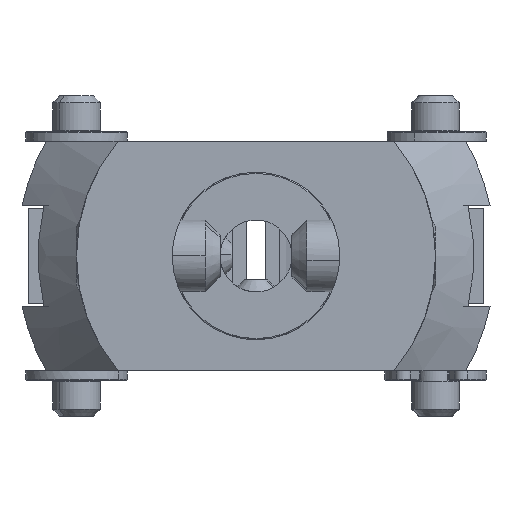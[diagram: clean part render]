
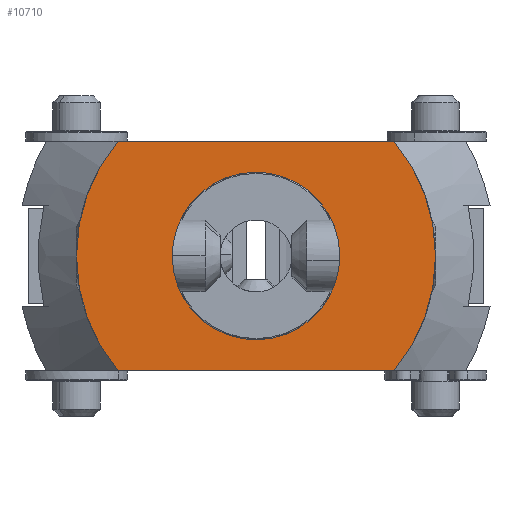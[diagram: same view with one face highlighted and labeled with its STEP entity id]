
A CAD part, left-side view. The second image highlights one B-rep face of the part: STEP entity #10710.
In plain terms, the highlighted planar face has unit normal (-1, 0, 0).
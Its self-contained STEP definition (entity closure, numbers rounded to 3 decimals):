
#351=CARTESIAN_POINT('Vertex',(-30.,-5.763,-4.8)) ;
#354=CARTESIAN_POINT('Line Origine',(-30.,0.,-4.8)) ;
#358=CARTESIAN_POINT('Vertex',(-30.,5.763,-4.8)) ;
#6153=CARTESIAN_POINT('Vertex',(-30.,5.763,4.8)) ;
#6156=CARTESIAN_POINT('Line Origine',(-30.,0.,4.8)) ;
#6160=CARTESIAN_POINT('Vertex',(-30.,-5.763,4.8)) ;
#9822=CARTESIAN_POINT('Vertex',(-30.,1.678,-3.072)) ;
#9825=CARTESIAN_POINT('Axis2P3D Location',(-30.,0.,0.)) ;
#9829=CARTESIAN_POINT('Vertex',(-30.,-1.678,3.072)) ;
#10022=CARTESIAN_POINT('Axis2P3D Location',(-30.,0.,0.)) ;
#10685=CARTESIAN_POINT('Axis2P3D Location',(-30.,0.,0.)) ;
#10690=CARTESIAN_POINT('Axis2P3D Location',(-30.,0.,0.)) ;
#10695=CARTESIAN_POINT('Axis2P3D Location',(-30.,0.,0.)) ;
#355=DIRECTION('Vector Direction',(0.,-1.,0.)) ;
#6157=DIRECTION('Vector Direction',(0.,-1.,0.)) ;
#9826=DIRECTION('Axis2P3D Direction',(1.,0.,0.)) ;
#10023=DIRECTION('Axis2P3D Direction',(1.,0.,0.)) ;
#10686=DIRECTION('Axis2P3D Direction',(-1.,0.,0.)) ;
#10687=DIRECTION('Axis2P3D XDirection',(0.,0.,1.)) ;
#10691=DIRECTION('Axis2P3D Direction',(-1.,0.,0.)) ;
#10696=DIRECTION('Axis2P3D Direction',(-1.,0.,0.)) ;
#9827=AXIS2_PLACEMENT_3D('Circle Axis2P3D',#9825,#9826,$) ;
#10024=AXIS2_PLACEMENT_3D('Circle Axis2P3D',#10022,#10023,$) ;
#10688=AXIS2_PLACEMENT_3D('Plane Axis2P3D',#10685,#10686,#10687) ;
#10692=AXIS2_PLACEMENT_3D('Circle Axis2P3D',#10690,#10691,$) ;
#10697=AXIS2_PLACEMENT_3D('Circle Axis2P3D',#10695,#10696,$) ;
#10701=ORIENTED_EDGE('',*,*,#10694,.T.) ;
#10702=ORIENTED_EDGE('',*,*,#6162,.F.) ;
#10703=ORIENTED_EDGE('',*,*,#10699,.T.) ;
#10704=ORIENTED_EDGE('',*,*,#360,.T.) ;
#10707=ORIENTED_EDGE('',*,*,#9831,.F.) ;
#10708=ORIENTED_EDGE('',*,*,#10026,.F.) ;
#10709=FACE_BOUND('',#10706,.T.) ;
#356=VECTOR('Line Direction',#355,1.) ;
#6158=VECTOR('Line Direction',#6157,1.) ;
#10710=ADVANCED_FACE('Hauptk\X2\00F6\X0\rper',(#10705,#10709),#10689,.T.) ;
#9828=CIRCLE('generated circle',#9827,3.5) ;
#10025=CIRCLE('generated circle',#10024,3.5) ;
#10693=CIRCLE('generated circle',#10692,7.5) ;
#10698=CIRCLE('generated circle',#10697,7.5) ;
#360=EDGE_CURVE('',#359,#352,#357,.T.) ;
#6162=EDGE_CURVE('',#6154,#6161,#6159,.T.) ;
#9831=EDGE_CURVE('',#9823,#9830,#9828,.F.) ;
#10026=EDGE_CURVE('',#9830,#9823,#10025,.F.) ;
#10694=EDGE_CURVE('',#352,#6161,#10693,.T.) ;
#10699=EDGE_CURVE('',#6154,#359,#10698,.T.) ;
#10700=EDGE_LOOP('',(#10701,#10702,#10703,#10704)) ;
#10706=EDGE_LOOP('',(#10707,#10708)) ;
#10705=FACE_OUTER_BOUND('',#10700,.T.) ;
#357=LINE('Line',#354,#356) ;
#6159=LINE('Line',#6156,#6158) ;
#10689=PLANE('',#10688) ;
#352=VERTEX_POINT('',#351) ;
#359=VERTEX_POINT('',#358) ;
#6154=VERTEX_POINT('',#6153) ;
#6161=VERTEX_POINT('',#6160) ;
#9823=VERTEX_POINT('',#9822) ;
#9830=VERTEX_POINT('',#9829) ;
